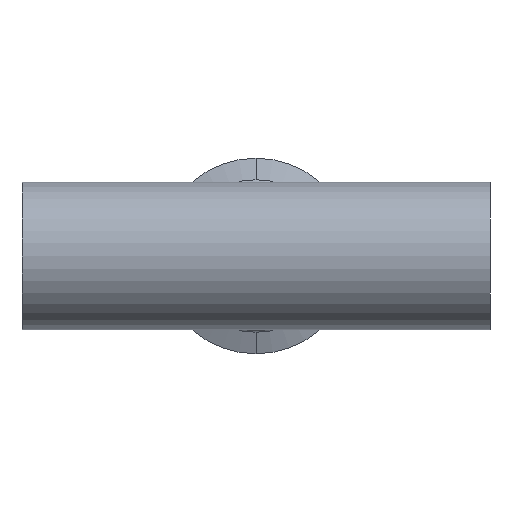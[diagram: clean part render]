
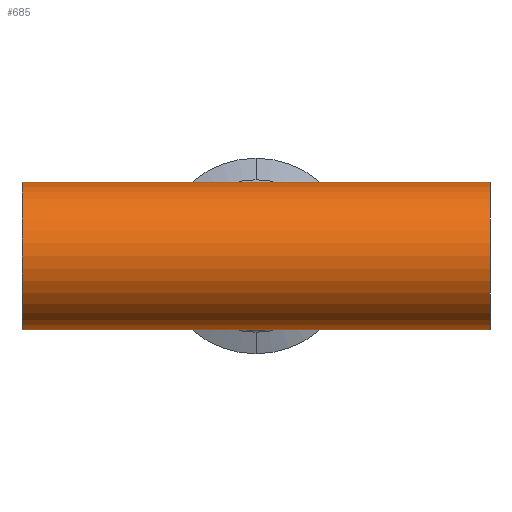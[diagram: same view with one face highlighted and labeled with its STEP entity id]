
A CAD part, front view. The second image highlights one B-rep face of the part: STEP entity #685.
In plain terms, the highlighted cylindrical face has radius 19.05 mm (diameter 38.1 mm), a partial arc.
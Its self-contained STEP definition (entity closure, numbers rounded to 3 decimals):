
#42 = VECTOR ( 'NONE', #906, 1000. ) ;
#48 = LINE ( 'NONE', #788, #493 ) ;
#80 = CARTESIAN_POINT ( 'NONE',  ( 60.3, 0., 19.05 ) ) ;
#121 = CARTESIAN_POINT ( 'NONE',  ( -60.3, 0., -19.05 ) ) ;
#171 = VERTEX_POINT ( 'NONE', #1520 ) ;
#193 = ORIENTED_EDGE ( 'NONE', *, *, #512, .F. ) ;
#210 = CARTESIAN_POINT ( 'NONE',  ( -60.3, 0., 19.05 ) ) ;
#227 = AXIS2_PLACEMENT_3D ( 'NONE', #668, #686, #673 ) ;
#291 = DIRECTION ( 'NONE',  ( 1., 0., 0. ) ) ;
#324 = AXIS2_PLACEMENT_3D ( 'NONE', #1220, #926, #377 ) ;
#377 = DIRECTION ( 'NONE',  ( 0., 0., -1. ) ) ;
#417 = VERTEX_POINT ( 'NONE', #121 ) ;
#445 = CYLINDRICAL_SURFACE ( 'NONE', #324, 19.05 ) ;
#450 = DIRECTION ( 'NONE',  ( 1., 0., 0. ) ) ;
#460 = CARTESIAN_POINT ( 'NONE',  ( -60.3, 0., 19.05 ) ) ;
#493 = VECTOR ( 'NONE', #1070, 1000. ) ;
#512 = EDGE_CURVE ( 'NONE', #1722, #1239, #588, .T. ) ;
#541 = DIRECTION ( 'NONE',  ( 0., 0., -1. ) ) ;
#549 = DIRECTION ( 'NONE',  ( 1., 0., 0. ) ) ;
#550 = ORIENTED_EDGE ( 'NONE', *, *, #1344, .T. ) ;
#554 = CARTESIAN_POINT ( 'NONE',  ( -60.3, 0., 0. ) ) ;
#588 = LINE ( 'NONE', #210, #1743 ) ;
#668 = CARTESIAN_POINT ( 'NONE',  ( 60.3, 0., 0. ) ) ;
#673 = DIRECTION ( 'NONE',  ( 0., 0., -1. ) ) ;
#685 = ADVANCED_FACE ( 'NONE', ( #853 ), #445, .T. ) ;
#686 = DIRECTION ( 'NONE',  ( -1., 0., 0. ) ) ;
#696 = EDGE_CURVE ( 'NONE', #1303, #171, #48, .T. ) ;
#698 = ORIENTED_EDGE ( 'NONE', *, *, #730, .T. ) ;
#730 = EDGE_CURVE ( 'NONE', #171, #1239, #1190, .T. ) ;
#788 = CARTESIAN_POINT ( 'NONE',  ( -60.3, 0., -19.05 ) ) ;
#791 = AXIS2_PLACEMENT_3D ( 'NONE', #554, #549, #541 ) ;
#793 = ORIENTED_EDGE ( 'NONE', *, *, #1550, .F. ) ;
#799 = LINE ( 'NONE', #869, #42 ) ;
#828 = CARTESIAN_POINT ( 'NONE',  ( 0., 0., -19.05 ) ) ;
#853 = FACE_OUTER_BOUND ( 'NONE', #1829, .T. ) ;
#869 = CARTESIAN_POINT ( 'NONE',  ( -60.3, 0., -19.05 ) ) ;
#897 = CARTESIAN_POINT ( 'NONE',  ( -60.3, 0., 19.05 ) ) ;
#906 = DIRECTION ( 'NONE',  ( 1., 0., 0. ) ) ;
#915 = ORIENTED_EDGE ( 'NONE', *, *, #1489, .T. ) ;
#926 = DIRECTION ( 'NONE',  ( 1., 0., 0. ) ) ;
#951 = VECTOR ( 'NONE', #450, 1000. ) ;
#1070 = DIRECTION ( 'NONE',  ( 1., 0., 0. ) ) ;
#1190 = CIRCLE ( 'NONE', #227, 19.05 ) ;
#1220 = CARTESIAN_POINT ( 'NONE',  ( -60.3, 0., 0. ) ) ;
#1239 = VERTEX_POINT ( 'NONE', #80 ) ;
#1276 = CARTESIAN_POINT ( 'NONE',  ( 0., 0., 19.05 ) ) ;
#1303 = VERTEX_POINT ( 'NONE', #828 ) ;
#1343 = ORIENTED_EDGE ( 'NONE', *, *, #696, .T. ) ;
#1344 = EDGE_CURVE ( 'NONE', #417, #1303, #799, .T. ) ;
#1489 = EDGE_CURVE ( 'NONE', #1821, #417, #1787, .T. ) ;
#1520 = CARTESIAN_POINT ( 'NONE',  ( 60.3, 0., -19.05 ) ) ;
#1550 = EDGE_CURVE ( 'NONE', #1821, #1722, #1711, .T. ) ;
#1711 = LINE ( 'NONE', #460, #951 ) ;
#1722 = VERTEX_POINT ( 'NONE', #1276 ) ;
#1743 = VECTOR ( 'NONE', #291, 1000. ) ;
#1787 = CIRCLE ( 'NONE', #791, 19.05 ) ;
#1821 = VERTEX_POINT ( 'NONE', #897 ) ;
#1829 = EDGE_LOOP ( 'NONE', ( #793, #915, #550, #1343, #698, #193 ) ) ;
